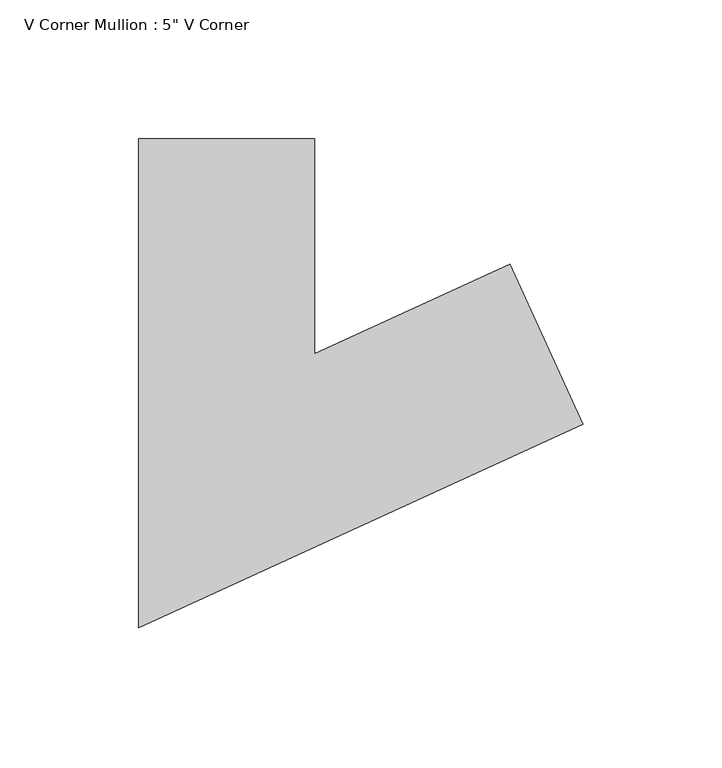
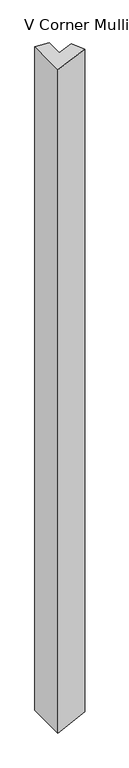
"""IFC4 building model written with IfcOpenShell, lengths in millimetres: member geometry."""

from ifc_helpers import new_model, si_unit, origin, place, context, project, spatial, faceted_brep, source, transform, mapped, element, save


def member_de666e84(model_context):
    return source(origin(), model_context, "Body", "Brep", [
        faceted_brep([(87.9205542, -39.5195451, -3107.7235293), (-72.5228811, -112.9476953, -3107.7235293), (-72.5228811, 63.5, -3107.7235293), (-9.0228811, 63.5, -3107.7235293), (-9.0228811, -14.0523047, -3107.7235293), (61.49523, 18.2208415, -3107.7235293), (61.49523, 18.2208415, -1.905045), (87.9205542, -39.5195451, -2.7236684), (-9.0228811, -14.0523047, 0.2795175), (-9.0228811, 63.5, 0.2795175), (-72.5228811, 63.5, 2.2466678), (-72.5228811, -112.9476953, 2.2466678)], [[[0, 1, 2, 3, 4, 5]], [[6, 7, 0, 5]], [[8, 6, 5, 4]], [[9, 8, 4, 3]], [[10, 9, 3, 2]], [[11, 10, 2, 1]], [[7, 11, 1, 0]], [[7, 6, 8, 9, 10, 11]]]),
    ])


if __name__ == "__main__":
    model = new_model("IFC4")
    model_context = context("Model", 3, world=origin())
    ifc_project = project(units=[si_unit("LENGTHUNIT", "METRE", prefix="MILLI")], contexts=[model_context])
    site = spatial("IfcSite", under=ifc_project)
    building = spatial("IfcBuilding", under=site)
    placement = place(None, origin())
    member_shape = member_de666e84(model_context)
    element("IfcMember", 1, ObjectType="V Corner Mullion : 5\" V Corner", at=placement, inside=building, context=model_context, shape_type="MappedRepresentation", body=[
        mapped(member_shape, transform((0.0, 0.0, 0.0), x_axis=(1.0, 0.0, 0.0), y_axis=(0.0, 1.0, 0.0), z_axis=(0.0, 0.0, 1.0))),
    ])
    save(model, "model.ifc")
